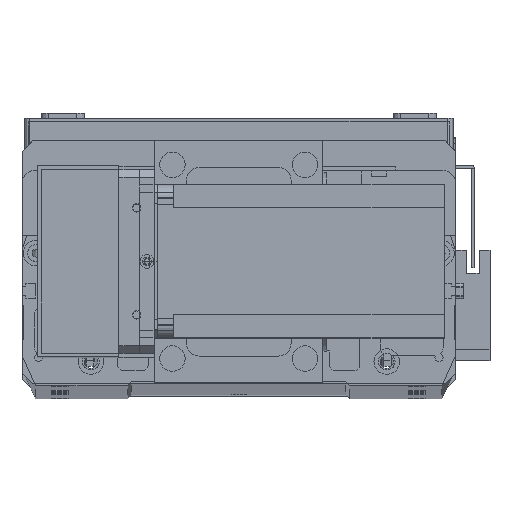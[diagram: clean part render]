
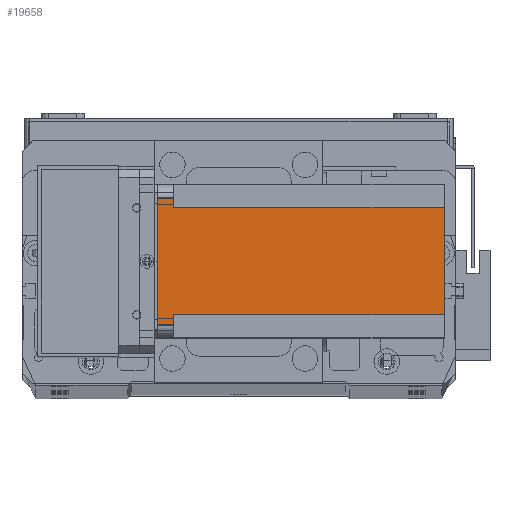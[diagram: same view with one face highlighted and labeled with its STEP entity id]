
A CAD part, top view. The second image highlights one B-rep face of the part: STEP entity #19658.
In plain terms, the highlighted planar face has unit normal (0, 0, 1) as drawn and (-1, 0, 0) by its records, which use the part's own axes.
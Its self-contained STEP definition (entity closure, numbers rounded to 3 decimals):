
#254 = DIRECTION ( 'NONE',  ( 0., 0., 1. ) ) ;
#1572 = EDGE_CURVE ( 'NONE', #32331, #27541, #8699, .T. ) ;
#1622 = VECTOR ( 'NONE', #31483, 1000. ) ;
#2177 = ORIENTED_EDGE ( 'NONE', *, *, #12769, .F. ) ;
#4396 = CARTESIAN_POINT ( 'NONE',  ( 0., 55., -112.5 ) ) ;
#4796 = VERTEX_POINT ( 'NONE', #14429 ) ;
#4811 = PLANE ( 'NONE',  #20879 ) ;
#5155 = EDGE_CURVE ( 'NONE', #29741, #24900, #11737, .T. ) ;
#5814 = CARTESIAN_POINT ( 'NONE',  ( 0., 51., -112.5 ) ) ;
#6103 = DIRECTION ( 'NONE',  ( 0., -1., 0. ) ) ;
#6239 = EDGE_CURVE ( 'NONE', #29741, #21652, #25460, .T. ) ;
#6305 = ORIENTED_EDGE ( 'NONE', *, *, #5155, .T. ) ;
#7217 = ORIENTED_EDGE ( 'NONE', *, *, #28353, .F. ) ;
#8699 = LINE ( 'NONE', #4396, #1622 ) ;
#9561 = VERTEX_POINT ( 'NONE', #31281 ) ;
#9954 = CARTESIAN_POINT ( 'NONE',  ( 0., 0., -6.5 ) ) ;
#10061 = VECTOR ( 'NONE', #254, 1000. ) ;
#10152 = DIRECTION ( 'NONE',  ( -1., 0., 0. ) ) ;
#10257 = VECTOR ( 'NONE', #27892, 1000. ) ;
#11271 = VECTOR ( 'NONE', #31157, 1000. ) ;
#11737 = LINE ( 'NONE', #32103, #10061 ) ;
#12769 = EDGE_CURVE ( 'NONE', #21652, #19622, #33355, .T. ) ;
#13719 = VECTOR ( 'NONE', #19103, 1000. ) ;
#14429 = CARTESIAN_POINT ( 'NONE',  ( 0., 51., -6.5 ) ) ;
#15631 = EDGE_CURVE ( 'NONE', #9561, #19622, #34019, .T. ) ;
#15964 = CARTESIAN_POINT ( 'NONE',  ( 0., 55., -6.5 ) ) ;
#16754 = DIRECTION ( 'NONE',  ( 0., 1., 0. ) ) ;
#16879 = ORIENTED_EDGE ( 'NONE', *, *, #18900, .F. ) ;
#17841 = ORIENTED_EDGE ( 'NONE', *, *, #1572, .T. ) ;
#18001 = DIRECTION ( 'NONE',  ( 0., 1., 0. ) ) ;
#18190 = FACE_OUTER_BOUND ( 'NONE', #33816, .T. ) ;
#18818 = ORIENTED_EDGE ( 'NONE', *, *, #15631, .T. ) ;
#18900 = EDGE_CURVE ( 'NONE', #32331, #24900, #28998, .T. ) ;
#19103 = DIRECTION ( 'NONE',  ( 0., 0., 1. ) ) ;
#19463 = CARTESIAN_POINT ( 'NONE',  ( 0., 5., -6.5 ) ) ;
#19622 = VERTEX_POINT ( 'NONE', #25885 ) ;
#19658 = ADVANCED_FACE ( 'NONE', ( #18190 ), #4811, .T. ) ;
#19884 = CARTESIAN_POINT ( 'NONE',  ( 0., 0., 0. ) ) ;
#20269 = CARTESIAN_POINT ( 'NONE',  ( 0., 9., -6.5 ) ) ;
#20879 = AXIS2_PLACEMENT_3D ( 'NONE', #23425, #10152, #28780 ) ;
#21652 = VERTEX_POINT ( 'NONE', #20269 ) ;
#21655 = LINE ( 'NONE', #5814, #13719 ) ;
#23146 = CARTESIAN_POINT ( 'NONE',  ( 0., 9., -112.5 ) ) ;
#23425 = CARTESIAN_POINT ( 'NONE',  ( 0., 0., -112.5 ) ) ;
#23731 = EDGE_CURVE ( 'NONE', #9561, #4796, #21655, .T. ) ;
#23766 = VECTOR ( 'NONE', #18001, 1000. ) ;
#24743 = CARTESIAN_POINT ( 'NONE',  ( 0., 0., -112.5 ) ) ;
#24900 = VERTEX_POINT ( 'NONE', #34192 ) ;
#25050 = ORIENTED_EDGE ( 'NONE', *, *, #23731, .F. ) ;
#25460 = LINE ( 'NONE', #9954, #23766 ) ;
#25885 = CARTESIAN_POINT ( 'NONE',  ( 0., 9., -112.5 ) ) ;
#26018 = CARTESIAN_POINT ( 'NONE',  ( 0., 55., 0. ) ) ;
#26486 = LINE ( 'NONE', #29991, #32725 ) ;
#27541 = VERTEX_POINT ( 'NONE', #15964 ) ;
#27780 = VECTOR ( 'NONE', #6103, 1000. ) ;
#27892 = DIRECTION ( 'NONE',  ( 0., -1., 0. ) ) ;
#28353 = EDGE_CURVE ( 'NONE', #4796, #27541, #26486, .T. ) ;
#28780 = DIRECTION ( 'NONE',  ( 0., -1., 0. ) ) ;
#28998 = LINE ( 'NONE', #19884, #10257 ) ;
#29061 = ORIENTED_EDGE ( 'NONE', *, *, #6239, .F. ) ;
#29741 = VERTEX_POINT ( 'NONE', #19463 ) ;
#29991 = CARTESIAN_POINT ( 'NONE',  ( 0., 60., -6.5 ) ) ;
#31157 = DIRECTION ( 'NONE',  ( 0., 0., -1. ) ) ;
#31281 = CARTESIAN_POINT ( 'NONE',  ( 0., 51., -112.5 ) ) ;
#31483 = DIRECTION ( 'NONE',  ( 0., 0., -1. ) ) ;
#32103 = CARTESIAN_POINT ( 'NONE',  ( 0., 5., -112.5 ) ) ;
#32331 = VERTEX_POINT ( 'NONE', #26018 ) ;
#32725 = VECTOR ( 'NONE', #16754, 1000. ) ;
#33355 = LINE ( 'NONE', #23146, #11271 ) ;
#33816 = EDGE_LOOP ( 'NONE', ( #29061, #6305, #16879, #17841, #7217, #25050, #18818, #2177 ) ) ;
#34019 = LINE ( 'NONE', #24743, #27780 ) ;
#34192 = CARTESIAN_POINT ( 'NONE',  ( 0., 5., 0. ) ) ;
